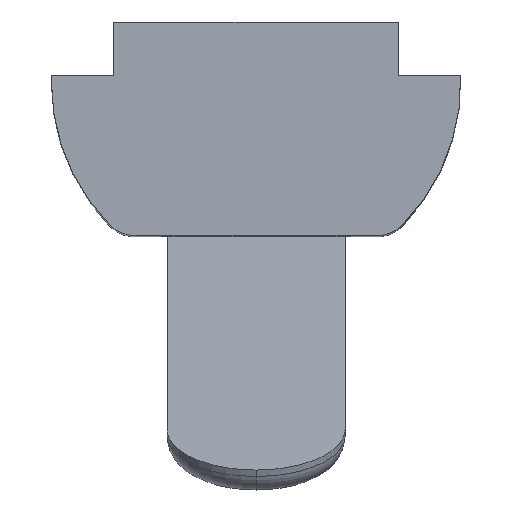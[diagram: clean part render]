
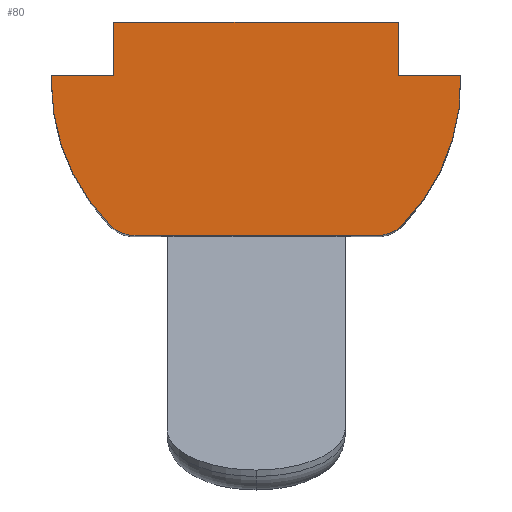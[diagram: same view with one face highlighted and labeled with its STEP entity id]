
A CAD part, top view. The second image highlights one B-rep face of the part: STEP entity #80.
In plain terms, the highlighted planar face has unit normal (0, 0, 1).
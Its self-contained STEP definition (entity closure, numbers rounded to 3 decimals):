
#13 = VECTOR ( 'NONE', #854, 1000. ) ;
#26 = VECTOR ( 'NONE', #546, 1000. ) ;
#37 = VERTEX_POINT ( 'NONE', #770 ) ;
#38 = PLANE ( 'NONE',  #315 ) ;
#43 = AXIS2_PLACEMENT_3D ( 'NONE', #569, #501, #96 ) ;
#57 = VECTOR ( 'NONE', #391, 1000. ) ;
#58 = DIRECTION ( 'NONE',  ( 1., 0., 0. ) ) ;
#63 = VECTOR ( 'NONE', #473, 1000. ) ;
#80 = ADVANCED_FACE ( 'NONE', ( #552 ), #38, .T. ) ;
#85 = VERTEX_POINT ( 'NONE', #652 ) ;
#94 = CARTESIAN_POINT ( 'NONE',  ( 4., 0., 11.5 ) ) ;
#96 = DIRECTION ( 'NONE',  ( 1., 0., 0. ) ) ;
#105 = VERTEX_POINT ( 'NONE', #312 ) ;
#127 = VERTEX_POINT ( 'NONE', #512 ) ;
#134 = CARTESIAN_POINT ( 'NONE',  ( -3.401, -5., 11.5 ) ) ;
#142 = AXIS2_PLACEMENT_3D ( 'NONE', #271, #679, #402 ) ;
#153 = CARTESIAN_POINT ( 'NONE',  ( 4., -1.5, 11.5 ) ) ;
#158 = CARTESIAN_POINT ( 'NONE',  ( 4.117, -5.699, 11.5 ) ) ;
#159 = CARTESIAN_POINT ( 'NONE',  ( 5.75, -1.5, 11.5 ) ) ;
#165 = EDGE_CURVE ( 'NONE', #533, #105, #293, .T. ) ;
#173 = ORIENTED_EDGE ( 'NONE', *, *, #240, .T. ) ;
#175 = ORIENTED_EDGE ( 'NONE', *, *, #787, .T. ) ;
#177 = LINE ( 'NONE', #286, #537 ) ;
#196 = VERTEX_POINT ( 'NONE', #158 ) ;
#199 = DIRECTION ( 'NONE',  ( 0., 0., 1. ) ) ;
#214 = EDGE_CURVE ( 'NONE', #544, #674, #269, .T. ) ;
#231 = ORIENTED_EDGE ( 'NONE', *, *, #375, .T. ) ;
#238 = CIRCLE ( 'NONE', #549, 1. ) ;
#240 = EDGE_CURVE ( 'NONE', #37, #533, #773, .T. ) ;
#241 = VERTEX_POINT ( 'NONE', #266 ) ;
#266 = CARTESIAN_POINT ( 'NONE',  ( -3.401, -6., 11.5 ) ) ;
#267 = ORIENTED_EDGE ( 'NONE', *, *, #540, .T. ) ;
#268 = LINE ( 'NONE', #503, #771 ) ;
#269 = LINE ( 'NONE', #834, #63 ) ;
#271 = CARTESIAN_POINT ( 'NONE',  ( 3.401, -5., 11.5 ) ) ;
#286 = CARTESIAN_POINT ( 'NONE',  ( -3.799, -6., 11.5 ) ) ;
#293 = CIRCLE ( 'NONE', #359, 5.753 ) ;
#304 = VERTEX_POINT ( 'NONE', #789 ) ;
#312 = CARTESIAN_POINT ( 'NONE',  ( -4.117, -5.699, 11.5 ) ) ;
#315 = AXIS2_PLACEMENT_3D ( 'NONE', #775, #445, #846 ) ;
#327 = ORIENTED_EDGE ( 'NONE', *, *, #476, .T. ) ;
#338 = EDGE_CURVE ( 'NONE', #127, #85, #858, .T. ) ;
#339 = ORIENTED_EDGE ( 'NONE', *, *, #469, .T. ) ;
#355 = CARTESIAN_POINT ( 'NONE',  ( -5.753, -1.68, 11.5 ) ) ;
#359 = AXIS2_PLACEMENT_3D ( 'NONE', #371, #507, #764 ) ;
#371 = CARTESIAN_POINT ( 'NONE',  ( 0., -1.68, 11.5 ) ) ;
#375 = EDGE_CURVE ( 'NONE', #304, #196, #662, .T. ) ;
#379 = LINE ( 'NONE', #627, #26 ) ;
#386 = CARTESIAN_POINT ( 'NONE',  ( -4., -1.5, 11.5 ) ) ;
#391 = DIRECTION ( 'NONE',  ( -1., 0., 0. ) ) ;
#402 = DIRECTION ( 'NONE',  ( 1., 0., 0. ) ) ;
#445 = DIRECTION ( 'NONE',  ( 0., 0., 1. ) ) ;
#469 = EDGE_CURVE ( 'NONE', #667, #544, #816, .T. ) ;
#473 = DIRECTION ( 'NONE',  ( 0., 1., 0. ) ) ;
#476 = EDGE_CURVE ( 'NONE', #105, #241, #238, .T. ) ;
#493 = DIRECTION ( 'NONE',  ( 1., 0., 0. ) ) ;
#501 = DIRECTION ( 'NONE',  ( 0., 0., 1. ) ) ;
#503 = CARTESIAN_POINT ( 'NONE',  ( -4., -1.5, 11.5 ) ) ;
#507 = DIRECTION ( 'NONE',  ( 0., 0., 1. ) ) ;
#511 = ORIENTED_EDGE ( 'NONE', *, *, #577, .T. ) ;
#512 = CARTESIAN_POINT ( 'NONE',  ( -4., 0., 11.5 ) ) ;
#533 = VERTEX_POINT ( 'NONE', #355 ) ;
#537 = VECTOR ( 'NONE', #493, 1000. ) ;
#538 = DIRECTION ( 'NONE',  ( 0., 0., 1. ) ) ;
#540 = EDGE_CURVE ( 'NONE', #241, #304, #177, .T. ) ;
#544 = VERTEX_POINT ( 'NONE', #153 ) ;
#546 = DIRECTION ( 'NONE',  ( -1., 0., 0. ) ) ;
#549 = AXIS2_PLACEMENT_3D ( 'NONE', #134, #538, #58 ) ;
#552 = FACE_OUTER_BOUND ( 'NONE', #824, .T. ) ;
#569 = CARTESIAN_POINT ( 'NONE',  ( 0., -1.68, 11.5 ) ) ;
#577 = EDGE_CURVE ( 'NONE', #196, #667, #828, .T. ) ;
#579 = ORIENTED_EDGE ( 'NONE', *, *, #338, .T. ) ;
#581 = CARTESIAN_POINT ( 'NONE',  ( 4., -1.5, 11.5 ) ) ;
#584 = ORIENTED_EDGE ( 'NONE', *, *, #704, .T. ) ;
#587 = AXIS2_PLACEMENT_3D ( 'NONE', #786, #199, #601 ) ;
#601 = DIRECTION ( 'NONE',  ( 1., 0., 0. ) ) ;
#627 = CARTESIAN_POINT ( 'NONE',  ( -4., 0., 11.5 ) ) ;
#652 = CARTESIAN_POINT ( 'NONE',  ( -4., -1.5, 11.5 ) ) ;
#662 = CIRCLE ( 'NONE', #142, 1. ) ;
#667 = VERTEX_POINT ( 'NONE', #159 ) ;
#674 = VERTEX_POINT ( 'NONE', #94 ) ;
#679 = DIRECTION ( 'NONE',  ( 0., 0., 1. ) ) ;
#681 = DIRECTION ( 'NONE',  ( -1., 0., 0. ) ) ;
#704 = EDGE_CURVE ( 'NONE', #85, #37, #268, .T. ) ;
#714 = ORIENTED_EDGE ( 'NONE', *, *, #165, .T. ) ;
#764 = DIRECTION ( 'NONE',  ( 1., 0., 0. ) ) ;
#770 = CARTESIAN_POINT ( 'NONE',  ( -5.75, -1.5, 11.5 ) ) ;
#771 = VECTOR ( 'NONE', #681, 1000. ) ;
#773 = CIRCLE ( 'NONE', #587, 5.753 ) ;
#774 = ORIENTED_EDGE ( 'NONE', *, *, #214, .T. ) ;
#775 = CARTESIAN_POINT ( 'NONE',  ( 0., -1.68, 11.5 ) ) ;
#786 = CARTESIAN_POINT ( 'NONE',  ( 0., -1.68, 11.5 ) ) ;
#787 = EDGE_CURVE ( 'NONE', #674, #127, #379, .T. ) ;
#789 = CARTESIAN_POINT ( 'NONE',  ( 3.401, -6., 11.5 ) ) ;
#816 = LINE ( 'NONE', #581, #57 ) ;
#824 = EDGE_LOOP ( 'NONE', ( #173, #714, #327, #267, #231, #511, #339, #774, #175, #579, #584 ) ) ;
#828 = CIRCLE ( 'NONE', #43, 5.753 ) ;
#834 = CARTESIAN_POINT ( 'NONE',  ( 4., 0., 11.5 ) ) ;
#846 = DIRECTION ( 'NONE',  ( 1., 0., 0. ) ) ;
#854 = DIRECTION ( 'NONE',  ( 0., -1., 0. ) ) ;
#858 = LINE ( 'NONE', #386, #13 ) ;
